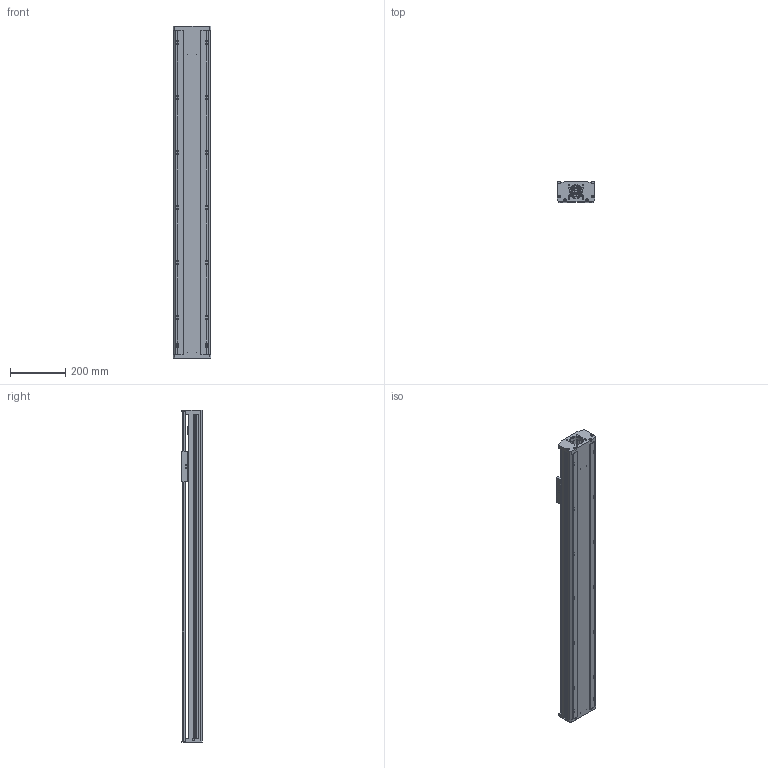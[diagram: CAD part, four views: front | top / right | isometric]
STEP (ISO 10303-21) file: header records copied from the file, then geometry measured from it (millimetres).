
FILE_DESCRIPTION(/* description */ (''),/* implementation_level */ '2;1');
FILE_NAME(/* name */ 'TKA136-F0-950_asm1.stp',/* time_stamp */ '2016-05-07T08:40:25+08:00',/* author */ (''),/* organization */ (''),/* preprocessor_version */ 'ST-DEVELOPER v15',/* originating_system */ 'SIEMENS PLM Software NX 8.5',/* authorisation */ '');
FILE_SCHEMA (('AUTOMOTIVE_DESIGN { 1 0 10303 214 3 1 1 1 }'));
Length unit declared in the file: millimetre
Products named in the file (3): 950-02; 950-01; TKA136-F0-950_asm1
Assembly tree (2 placements, depth 2):
  TKA136-F0-950_asm1
    950-01
    950-02
Bounding box: 136 x 75 x 1207 mm (x, y, z)
Volume: 3705045.7 mm3; surface area: 1380204.6 mm2
Topology: 2 solids, 12 shells, 845 faces, 2419 edges, 1580 vertices
Faces by surface type: cylinder 404, plane 387, cone 54
Full cylindrical faces by diameter (mm): 2.5 x4, 3 x2, 3.3 x12, 4 x4, 4.2 x10, 4.5 x20, 5 x18, 5.5 x26, 6.6 x18, 8 x20, 10 x9, 10.5 x14, 11 x4, 11.6 x1, 12 x9, 15 x3, 16 x5, 17 x1, 24 x5, 26 x1, 28 x1, 46 x1, 50 x1
Entity records: 28764 total; most frequent: CARTESIAN_POINT 7980, DIRECTION 4277, ORIENTED_EDGE 4060, EDGE_CURVE 2030, AXIS2_PLACEMENT_3D 1631, VERTEX_POINT 1460, EDGE_LOOP 1240, LINE 1015
